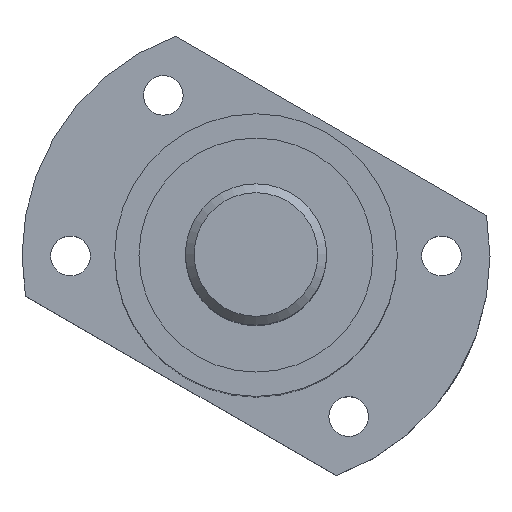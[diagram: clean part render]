
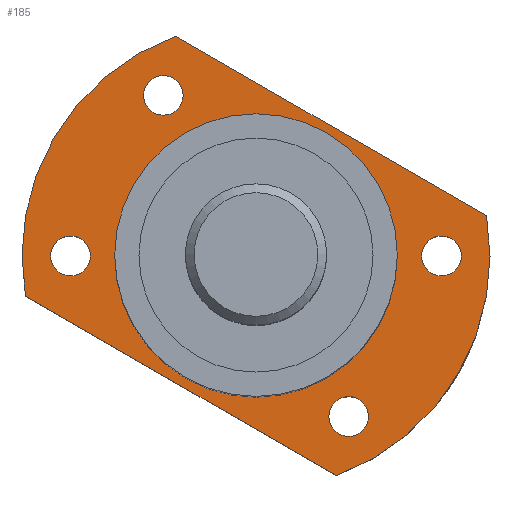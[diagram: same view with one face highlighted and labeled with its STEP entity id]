
A CAD part, top view. The second image highlights one B-rep face of the part: STEP entity #185.
In plain terms, the highlighted planar face has unit normal (0, 0, 1) as drawn and (1, 0, 0) by its records, which use the part's own axes.
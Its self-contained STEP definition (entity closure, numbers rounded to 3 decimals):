
#103=LINE('',#1196,#111);
#104=LINE('',#1200,#112);
#111=VECTOR('',#958,1.);
#112=VECTOR('',#961,1.);
#144=PLANE('',#788);
#185=ADVANCED_FACE('',(#294,#295,#296,#297,#298,#299),#144,.T.);
#294=FACE_BOUND('',#390,.T.);
#295=FACE_BOUND('',#391,.T.);
#296=FACE_BOUND('',#392,.T.);
#297=FACE_BOUND('',#393,.T.);
#298=FACE_BOUND('',#394,.T.);
#299=FACE_BOUND('',#395,.T.);
#390=EDGE_LOOP('',(#492,#493,#494,#495));
#391=EDGE_LOOP('',(#496));
#392=EDGE_LOOP('',(#497));
#393=EDGE_LOOP('',(#498));
#394=EDGE_LOOP('',(#499));
#395=EDGE_LOOP('',(#500));
#492=ORIENTED_EDGE('',*,*,#636,.F.);
#493=ORIENTED_EDGE('',*,*,#637,.T.);
#494=ORIENTED_EDGE('',*,*,#638,.F.);
#495=ORIENTED_EDGE('',*,*,#639,.T.);
#496=ORIENTED_EDGE('',*,*,#640,.T.);
#497=ORIENTED_EDGE('',*,*,#641,.F.);
#498=ORIENTED_EDGE('',*,*,#642,.F.);
#499=ORIENTED_EDGE('',*,*,#643,.T.);
#500=ORIENTED_EDGE('',*,*,#618,.F.);
#562=VERTEX_POINT('',#1141);
#580=VERTEX_POINT('',#1194);
#581=VERTEX_POINT('',#1195);
#582=VERTEX_POINT('',#1197);
#583=VERTEX_POINT('',#1199);
#584=VERTEX_POINT('',#1202);
#585=VERTEX_POINT('',#1204);
#586=VERTEX_POINT('',#1206);
#587=VERTEX_POINT('',#1208);
#618=EDGE_CURVE('',#562,#562,#677,.T.);
#636=EDGE_CURVE('',#580,#581,#695,.T.);
#637=EDGE_CURVE('',#580,#582,#103,.T.);
#638=EDGE_CURVE('',#583,#582,#696,.T.);
#639=EDGE_CURVE('',#583,#581,#104,.T.);
#640=EDGE_CURVE('',#584,#584,#697,.T.);
#641=EDGE_CURVE('',#585,#585,#698,.T.);
#642=EDGE_CURVE('',#586,#586,#699,.T.);
#643=EDGE_CURVE('',#587,#587,#700,.T.);
#677=CIRCLE('',#747,16.);
#695=CIRCLE('',#782,26.5);
#696=CIRCLE('',#783,26.5);
#697=CIRCLE('',#784,2.25);
#698=CIRCLE('',#785,2.25);
#699=CIRCLE('',#786,2.25);
#700=CIRCLE('',#787,2.25);
#747=AXIS2_PLACEMENT_3D('',#1140,#886,#887);
#782=AXIS2_PLACEMENT_3D('',#1193,#956,#957);
#783=AXIS2_PLACEMENT_3D('',#1198,#959,#960);
#784=AXIS2_PLACEMENT_3D('',#1201,#962,#963);
#785=AXIS2_PLACEMENT_3D('',#1203,#964,#965);
#786=AXIS2_PLACEMENT_3D('',#1205,#966,#967);
#787=AXIS2_PLACEMENT_3D('',#1207,#968,#969);
#788=AXIS2_PLACEMENT_3D('',#1209,#970,#971);
#886=DIRECTION('',(1.,0.,0.));
#887=DIRECTION('',(0.,1.,0.));
#956=DIRECTION('',(-1.,0.,0.));
#957=DIRECTION('',(0.,1.,0.));
#958=DIRECTION('',(0.,0.5,0.866));
#959=DIRECTION('',(-1.,0.,0.));
#960=DIRECTION('',(0.,1.,0.));
#961=DIRECTION('',(0.,-0.5,-0.866));
#962=DIRECTION('',(-1.,0.,0.));
#963=DIRECTION('',(0.,0.866,-0.5));
#964=DIRECTION('',(1.,0.,0.));
#965=DIRECTION('',(0.,0.866,-0.5));
#966=DIRECTION('',(1.,0.,0.));
#967=DIRECTION('',(0.,0.866,-0.5));
#968=DIRECTION('',(-1.,0.,0.));
#969=DIRECTION('',(0.,0.866,-0.5));
#970=DIRECTION('',(1.,0.,0.));
#971=DIRECTION('',(0.,0.866,-0.5));
#1140=CARTESIAN_POINT('',(132.82,54.969,0.));
#1141=CARTESIAN_POINT('',(132.82,70.969,0.));
#1193=CARTESIAN_POINT('',(132.82,54.969,0.));
#1194=CARTESIAN_POINT('',(132.82,59.527,-26.105));
#1195=CARTESIAN_POINT('',(132.82,30.082,-9.105));
#1196=CARTESIAN_POINT('',(132.82,69.691,-8.5));
#1197=CARTESIAN_POINT('',(132.82,79.856,9.105));
#1198=CARTESIAN_POINT('',(132.82,54.969,0.));
#1199=CARTESIAN_POINT('',(132.82,50.411,26.105));
#1200=CARTESIAN_POINT('',(132.82,40.247,8.5));
#1201=CARTESIAN_POINT('',(132.82,73.155,10.5));
#1202=CARTESIAN_POINT('',(132.82,75.104,9.375));
#1203=CARTESIAN_POINT('',(132.82,54.969,21.));
#1204=CARTESIAN_POINT('',(132.82,56.918,19.875));
#1205=CARTESIAN_POINT('',(132.82,54.969,-21.));
#1206=CARTESIAN_POINT('',(132.82,56.918,-22.125));
#1207=CARTESIAN_POINT('',(132.82,36.782,-10.5));
#1208=CARTESIAN_POINT('',(132.82,38.731,-11.625));
#1209=CARTESIAN_POINT('',(132.82,78.785,-13.75));
